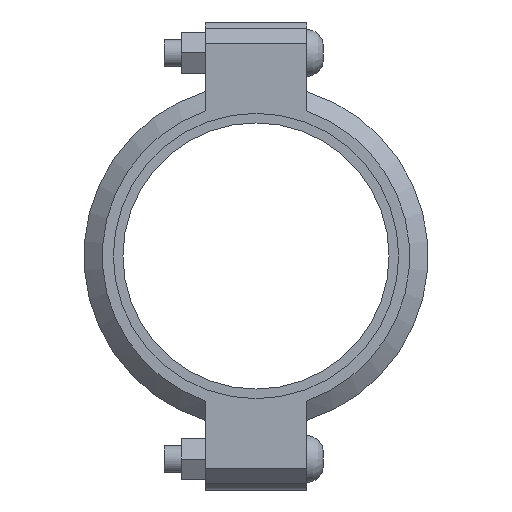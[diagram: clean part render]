
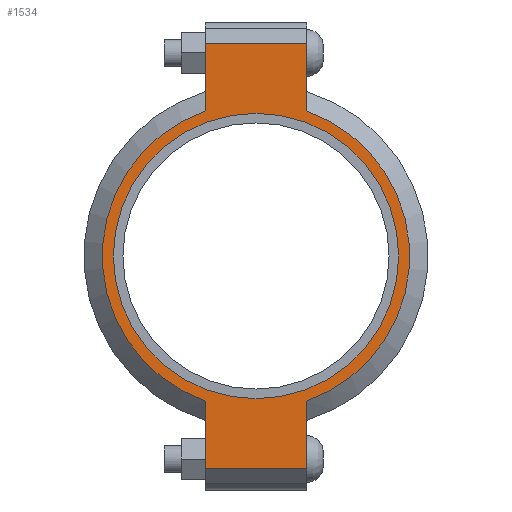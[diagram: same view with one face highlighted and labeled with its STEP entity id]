
A CAD part, left-side view. The second image highlights one B-rep face of the part: STEP entity #1534.
In plain terms, the highlighted planar face has unit normal (-1, 0, 0) as drawn and (0, 0, 1) by its records, which use the part's own axes.
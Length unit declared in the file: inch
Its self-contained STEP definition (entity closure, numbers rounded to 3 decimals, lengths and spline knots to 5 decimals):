
#158=LINE('',#2686,#251);
#166=LINE('',#2722,#259);
#173=LINE('',#2743,#266);
#182=LINE('',#2775,#275);
#183=LINE('',#2779,#276);
#184=LINE('',#2781,#277);
#251=VECTOR('',#2194,0.3937);
#259=VECTOR('',#2210,0.3937);
#266=VECTOR('',#2229,0.3937);
#275=VECTOR('',#2254,0.3937);
#276=VECTOR('',#2259,0.3937);
#277=VECTOR('',#2260,0.3937);
#333=FACE_BOUND('',#511,.T.);
#405=FACE_OUTER_BOUND('',#510,.T.);
#510=EDGE_LOOP('',(#1275,#1276,#1277,#1278,#1279,#1280,#1281,#1282));
#511=EDGE_LOOP('',(#1283));
#583=CIRCLE('',#1762,3.25);
#609=CIRCLE('',#1821,3.5);
#610=CIRCLE('',#1822,3.5);
#675=VERTEX_POINT('',#2502);
#718=VERTEX_POINT('',#2683);
#719=VERTEX_POINT('',#2685);
#730=VERTEX_POINT('',#2717);
#731=VERTEX_POINT('',#2721);
#738=VERTEX_POINT('',#2740);
#739=VERTEX_POINT('',#2742);
#749=VERTEX_POINT('',#2778);
#750=VERTEX_POINT('',#2780);
#831=EDGE_CURVE('',#675,#675,#583,.T.);
#892=EDGE_CURVE('',#719,#718,#158,.T.);
#906=EDGE_CURVE('',#731,#730,#166,.T.);
#916=EDGE_CURVE('',#739,#738,#173,.T.);
#931=EDGE_CURVE('',#731,#718,#182,.T.);
#932=EDGE_CURVE('',#730,#739,#609,.T.);
#933=EDGE_CURVE('',#749,#738,#183,.T.);
#934=EDGE_CURVE('',#749,#750,#184,.T.);
#935=EDGE_CURVE('',#750,#719,#610,.T.);
#1275=ORIENTED_EDGE('',*,*,#931,.F.);
#1276=ORIENTED_EDGE('',*,*,#906,.T.);
#1277=ORIENTED_EDGE('',*,*,#932,.T.);
#1278=ORIENTED_EDGE('',*,*,#916,.T.);
#1279=ORIENTED_EDGE('',*,*,#933,.F.);
#1280=ORIENTED_EDGE('',*,*,#934,.T.);
#1281=ORIENTED_EDGE('',*,*,#935,.T.);
#1282=ORIENTED_EDGE('',*,*,#892,.T.);
#1283=ORIENTED_EDGE('',*,*,#831,.T.);
#1376=PLANE('',#1820);
#1534=ADVANCED_FACE('',(#405,#333),#1376,.T.);
#1762=AXIS2_PLACEMENT_3D('',#2504,#2070,#2071);
#1820=AXIS2_PLACEMENT_3D('',#2776,#2255,#2256);
#1821=AXIS2_PLACEMENT_3D('',#2777,#2257,#2258);
#1822=AXIS2_PLACEMENT_3D('',#2782,#2261,#2262);
#2070=DIRECTION('center_axis',(0.,0.,-1.));
#2071=DIRECTION('ref_axis',(1.,0.,0.));
#2194=DIRECTION('',(1.,0.,0.));
#2210=DIRECTION('',(-1.,0.,0.));
#2229=DIRECTION('',(-1.,0.,0.));
#2254=DIRECTION('',(0.,-1.,0.));
#2255=DIRECTION('center_axis',(0.,0.,1.));
#2256=DIRECTION('ref_axis',(-1.,0.,0.));
#2257=DIRECTION('center_axis',(0.,0.,1.));
#2258=DIRECTION('ref_axis',(1.,0.,0.));
#2259=DIRECTION('',(0.,1.,0.));
#2260=DIRECTION('',(1.,0.,0.));
#2261=DIRECTION('center_axis',(0.,0.,1.));
#2262=DIRECTION('ref_axis',(1.,0.,0.));
#2502=CARTESIAN_POINT('',(-3.25,0.,1.04));
#2504=CARTESIAN_POINT('Origin',(0.,0.,1.04));
#2683=CARTESIAN_POINT('',(4.83,-1.156,1.04));
#2685=CARTESIAN_POINT('',(3.30358,-1.156,1.04));
#2686=CARTESIAN_POINT('',(5.33,-1.156,1.04));
#2717=CARTESIAN_POINT('',(3.30358,1.156,1.04));
#2721=CARTESIAN_POINT('',(4.83,1.156,1.04));
#2722=CARTESIAN_POINT('',(-5.33,1.156,1.04));
#2740=CARTESIAN_POINT('',(-4.83,1.156,1.04));
#2742=CARTESIAN_POINT('',(-3.30358,1.156,1.04));
#2743=CARTESIAN_POINT('',(-5.33,1.156,1.04));
#2775=CARTESIAN_POINT('',(4.83,-0.578,1.04));
#2776=CARTESIAN_POINT('Origin',(0.,0.,
1.04));
#2777=CARTESIAN_POINT('Origin',(0.,0.,1.04));
#2778=CARTESIAN_POINT('',(-4.83,-1.156,1.04));
#2779=CARTESIAN_POINT('',(-4.83,0.578,1.04));
#2780=CARTESIAN_POINT('',(-3.30358,-1.156,1.04));
#2781=CARTESIAN_POINT('',(5.33,-1.156,1.04));
#2782=CARTESIAN_POINT('Origin',(0.,0.,1.04));
